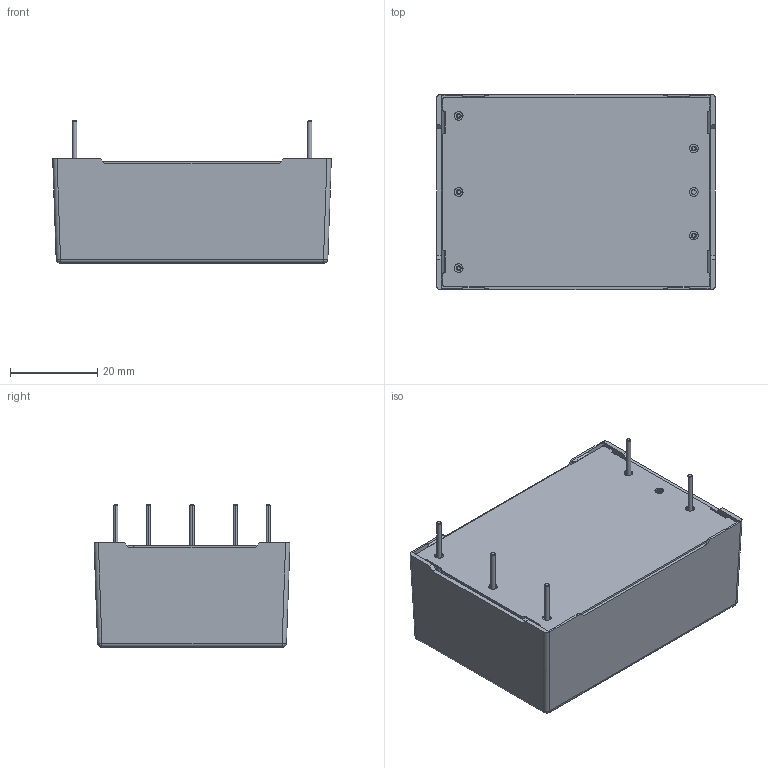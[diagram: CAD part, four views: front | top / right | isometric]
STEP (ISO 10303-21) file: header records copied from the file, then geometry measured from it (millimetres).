
FILE_DESCRIPTION (( 'STEP AP214' ), '1' );
FILE_NAME ('tms15-pcb-single.STEP', '2015-12-22T13:48:10', ( '' ), ( '' ), 'SwSTEP 2.0', 'SolidWorks 2013', '' );
FILE_SCHEMA (( 'AUTOMOTIVE_DESIGN' ));
Length unit declared in the file: millimetre
Products named in the file (5): Base; Pin; Board; Case; tms15-pcb-single
Assembly tree (8 placements, depth 2):
  tms15-pcb-single
    Case
    Board
    Pin  x5
    Base
Bounding box: 64 x 45 x 32.8 mm (x, y, z)
Volume: 11066 mm3; surface area: 26052 mm2
Topology: 11 solids, 11 shells, 319 faces, 829 edges, 536 vertices
Faces by surface type: plane 185, cylinder 92, cone 20, bspline 18, sphere 4
Entity records: 12385 total; most frequent: CARTESIAN_POINT 1951, ORIENTED_EDGE 1530, DIRECTION 1359, EDGE_CURVE 765, VECTOR 575, LINE 575, VERTEX_POINT 496, AXIS2_PLACEMENT_3D 392
